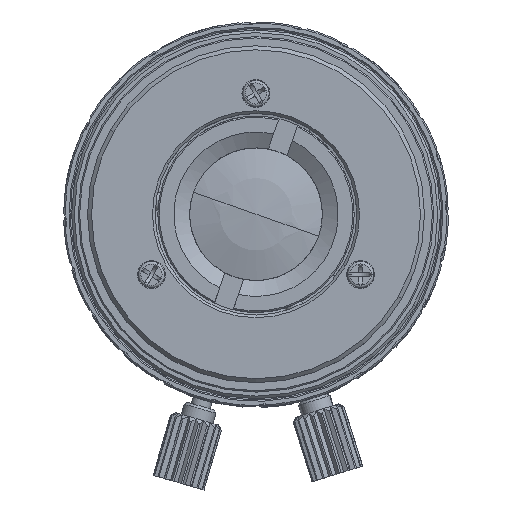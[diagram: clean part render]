
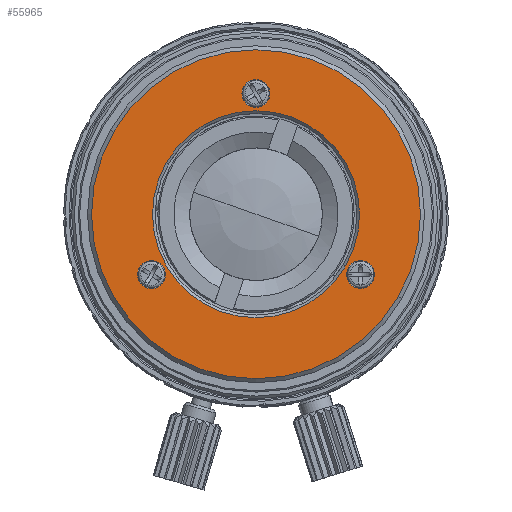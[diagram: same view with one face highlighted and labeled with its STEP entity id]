
A CAD part, top view. The second image highlights one B-rep face of the part: STEP entity #55965.
In plain terms, the highlighted planar face has unit normal (0, 0, 1).
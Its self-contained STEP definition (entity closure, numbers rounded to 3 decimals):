
#55154=CARTESIAN_POINT('',(0.,0.,6.547));
#55155=DIRECTION('',(0.,0.,-1.));
#55156=DIRECTION('',(1.,0.,0.));
#55157=AXIS2_PLACEMENT_3D('',#55154,#55155,#55156);
#55159=CARTESIAN_POINT('',(0.,0.,6.547));
#55160=DIRECTION('',(0.,0.,1.));
#55161=DIRECTION('',(1.,0.,0.));
#55162=AXIS2_PLACEMENT_3D('',#55159,#55160,#55161);
#55164=CARTESIAN_POINT('',(9.1,0.,6.547));
#55165=DIRECTION('',(0.,0.,-1.));
#55166=DIRECTION('',(-1.,0.,0.));
#55167=AXIS2_PLACEMENT_3D('',#55164,#55165,#55166);
#55169=CARTESIAN_POINT('',(9.1,0.,6.547));
#55170=DIRECTION('',(0.,0.,-1.));
#55171=DIRECTION('',(1.,0.,0.));
#55172=AXIS2_PLACEMENT_3D('',#55169,#55170,#55171);
#55174=CARTESIAN_POINT('',(-4.55,7.881,6.547));
#55175=DIRECTION('',(0.,0.,-1.));
#55176=DIRECTION('',(0.5,-0.866,0.));
#55177=AXIS2_PLACEMENT_3D('',#55174,#55175,#55176);
#55179=CARTESIAN_POINT('',(-4.55,7.881,6.547));
#55180=DIRECTION('',(0.,0.,-1.));
#55181=DIRECTION('',(-0.5,0.866,0.));
#55182=AXIS2_PLACEMENT_3D('',#55179,#55180,#55181);
#55184=CARTESIAN_POINT('',(-4.55,-7.881,6.547));
#55185=DIRECTION('',(0.,0.,-1.));
#55186=DIRECTION('',(0.5,0.866,0.));
#55187=AXIS2_PLACEMENT_3D('',#55184,#55185,#55186);
#55189=CARTESIAN_POINT('',(-4.55,-7.881,6.547));
#55190=DIRECTION('',(0.,0.,-1.));
#55191=DIRECTION('',(-0.5,-0.866,0.));
#55192=AXIS2_PLACEMENT_3D('',#55189,#55190,#55191);
#55194=CARTESIAN_POINT('',(0.,0.,6.547));
#55195=DIRECTION('',(0.,0.,1.));
#55196=DIRECTION('',(1.,0.,0.));
#55197=AXIS2_PLACEMENT_3D('',#55194,#55195,#55196);
#55207=CARTESIAN_POINT('',(0.,0.,6.547));
#55208=DIRECTION('',(0.,0.,-1.));
#55209=DIRECTION('',(1.,0.,0.));
#55210=AXIS2_PLACEMENT_3D('',#55207,#55208,#55209);
#55350=CARTESIAN_POINT('',(7.8,0.,6.547));
#55351=VERTEX_POINT('',#55350);
#55352=CARTESIAN_POINT('',(12.4,0.,6.547));
#55353=VERTEX_POINT('',#55352);
#55384=CARTESIAN_POINT('',(-7.8,0.,6.547));
#55385=VERTEX_POINT('',#55384);
#55386=CARTESIAN_POINT('',(-12.4,0.,6.547));
#55387=VERTEX_POINT('',#55386);
#55400=CARTESIAN_POINT('',(8.05,0.,6.547));
#55401=CARTESIAN_POINT('',(10.15,0.,6.547));
#55402=VERTEX_POINT('',#55400);
#55403=VERTEX_POINT('',#55401);
#55412=CARTESIAN_POINT('',(-4.025,6.972,6.547));
#55413=VERTEX_POINT('',#55412);
#55414=CARTESIAN_POINT('',(-5.075,8.79,6.547));
#55415=VERTEX_POINT('',#55414);
#55420=CARTESIAN_POINT('',(-4.025,-6.972,6.547));
#55421=VERTEX_POINT('',#55420);
#55422=CARTESIAN_POINT('',(-5.075,-8.79,6.547));
#55423=VERTEX_POINT('',#55422);
#55932=CARTESIAN_POINT('',(0.,0.,6.547));
#55933=DIRECTION('',(0.,0.,1.));
#55934=DIRECTION('',(-1.,0.,0.));
#55935=AXIS2_PLACEMENT_3D('',#55932,#55933,#55934);
#55936=PLANE('',#55935);
#55938=ORIENTED_EDGE('',*,*,#55937,.F.);
#55940=ORIENTED_EDGE('',*,*,#55939,.T.);
#55941=EDGE_LOOP('',(#55938,#55940));
#55942=FACE_OUTER_BOUND('',#55941,.F.);
#55943=ORIENTED_EDGE('',*,*,#55925,.F.);
#55944=ORIENTED_EDGE('',*,*,#55914,.T.);
#55945=EDGE_LOOP('',(#55943,#55944));
#55946=FACE_BOUND('',#55945,.F.);
#55948=ORIENTED_EDGE('',*,*,#55947,.F.);
#55950=ORIENTED_EDGE('',*,*,#55949,.F.);
#55951=EDGE_LOOP('',(#55948,#55950));
#55952=FACE_BOUND('',#55951,.F.);
#55954=ORIENTED_EDGE('',*,*,#55953,.F.);
#55956=ORIENTED_EDGE('',*,*,#55955,.F.);
#55957=EDGE_LOOP('',(#55954,#55956));
#55958=FACE_BOUND('',#55957,.F.);
#55960=ORIENTED_EDGE('',*,*,#55959,.F.);
#55962=ORIENTED_EDGE('',*,*,#55961,.F.);
#55963=EDGE_LOOP('',(#55960,#55962));
#55964=FACE_BOUND('',#55963,.F.);
#55965=ADVANCED_FACE('',(#55942,#55946,#55952,#55958,#55964),#55936,.T.);
#55158=CIRCLE('',#55157,7.8);
#55163=CIRCLE('',#55162,7.8);
#55168=CIRCLE('',#55167,1.05);
#55173=CIRCLE('',#55172,1.05);
#55178=CIRCLE('',#55177,1.05);
#55183=CIRCLE('',#55182,1.05);
#55188=CIRCLE('',#55187,1.05);
#55193=CIRCLE('',#55192,1.05);
#55198=CIRCLE('',#55197,12.4);
#55211=CIRCLE('',#55210,12.4);
#55914=EDGE_CURVE('',#55351,#55385,#55163,.T.);
#55925=EDGE_CURVE('',#55351,#55385,#55158,.T.);
#55937=EDGE_CURVE('',#55353,#55387,#55198,.T.);
#55939=EDGE_CURVE('',#55353,#55387,#55211,.T.);
#55947=EDGE_CURVE('',#55402,#55403,#55168,.T.);
#55949=EDGE_CURVE('',#55403,#55402,#55173,.T.);
#55953=EDGE_CURVE('',#55413,#55415,#55178,.T.);
#55955=EDGE_CURVE('',#55415,#55413,#55183,.T.);
#55959=EDGE_CURVE('',#55421,#55423,#55188,.T.);
#55961=EDGE_CURVE('',#55423,#55421,#55193,.T.);
